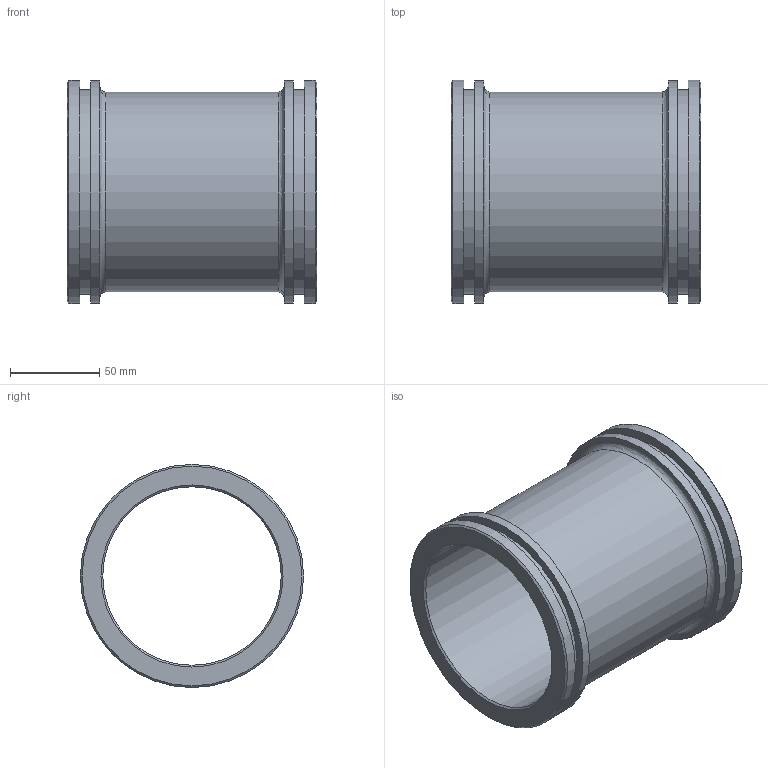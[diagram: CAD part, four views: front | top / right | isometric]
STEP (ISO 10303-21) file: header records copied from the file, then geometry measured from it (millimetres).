
FILE_DESCRIPTION((''),'2;1');
FILE_NAME('N:\CAD\ARCHIV\5350 (-999)\Standardhülsen\5350.100.140\Kundenteil 3D\5350.100.140 für Kunden.stp','2011-07-08T12:22:46',('HWalkhoff'),(''),'Autodesk Inventor 2009','Autodesk Inventor 2009','');
FILE_SCHEMA(('AUTOMOTIVE_DESIGN { 1 0 10303 214 1 1 1 1 }'));
Length unit declared in the file: millimetre
Products named in the file (1): Hülse für Kunden
Bounding box: 140 x 125 x 125 mm (x, y, z)
Volume: 343461.6 mm3; surface area: 113758.6 mm2
Topology: 1 solids, 1 shells, 22 faces, 36 edges, 22 vertices
Faces by surface type: cylinder 8, plane 8, cone 4, bspline 2
Full cylindrical faces by diameter (mm): 100 x1, 112 x1, 114.34 x2, 124.5 x2, 125 x2
Entity records: 554 total; most frequent: CARTESIAN_POINT 155, DIRECTION 86, ORIENTED_EDGE 44, EDGE_LOOP 44, AXIS2_PLACEMENT_3D 43, VERTEX_POINT 22, CIRCLE 22, EDGE_CURVE 22
